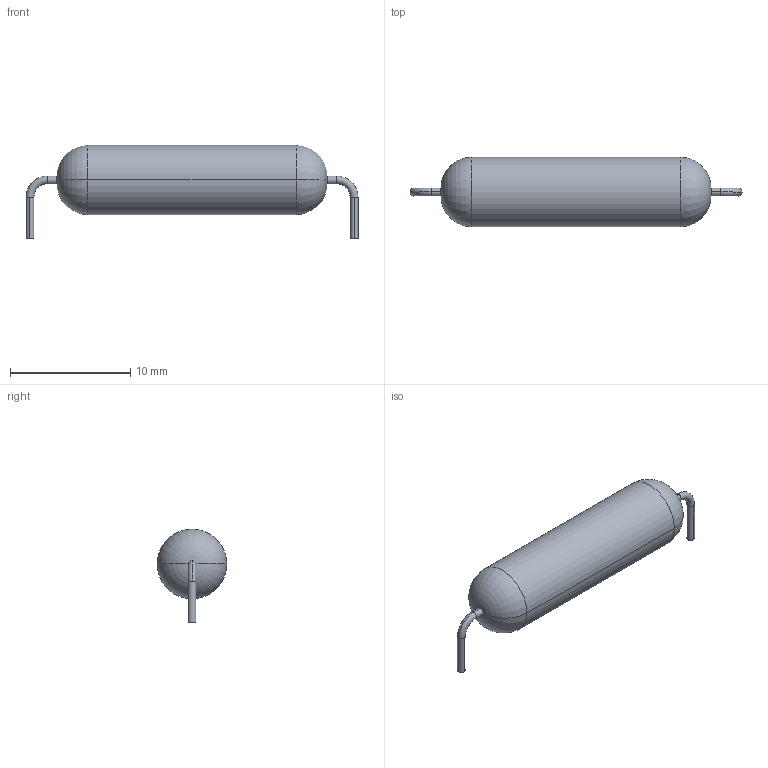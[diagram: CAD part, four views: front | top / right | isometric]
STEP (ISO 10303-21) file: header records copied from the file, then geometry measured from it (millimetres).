
FILE_DESCRIPTION (( 'STEP AP214' ), '1' );
FILE_NAME ( 'FUSAD2700W65L2250D580.STEP', '2021-10-06T06:48:59', ( '' ), ( '' ), '', '©2017 PCB Libraries, Inc.', '' );
FILE_SCHEMA (( 'AUTOMOTIVE_DESIGN' ));
Length unit declared in the file: millimetre
Products named in the file (1): FUSAD2700W65L2250D580
Bounding box: 27.65 x 5.8 x 7.8 mm (x, y, z)
Volume: 557.2 mm3; surface area: 444.6 mm2
Topology: 3 solids, 3 shells, 24 faces, 46 edges, 28 vertices
Faces by surface type: cylinder 10, torus 8, plane 6
Entity records: 742 total; most frequent: DIRECTION 132, CARTESIAN_POINT 99, ORIENTED_EDGE 92, AXIS2_PLACEMENT_3D 61, EDGE_CURVE 46, CIRCLE 36, VERTEX_POINT 28, STYLED_ITEM 28
